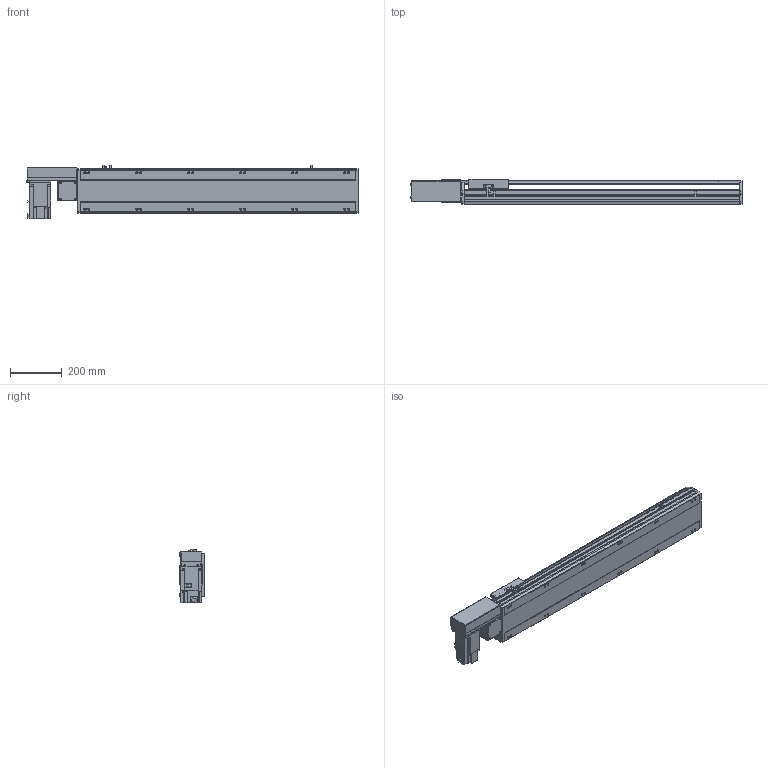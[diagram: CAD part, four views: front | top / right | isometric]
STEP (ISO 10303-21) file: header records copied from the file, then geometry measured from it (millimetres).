
FILE_DESCRIPTION( ( 'STEP AP214' ), '1' );
FILE_NAME( 'x:/temp/worker_4/temp/exporttempdir_2248_260_O9kX8/format_0/PBS170-P40-S800-R-T75-C1-N(0).stp', '2022-06-07T07:29:43', ( 'License CC BY-ND 4.0' ), ( 'CADENAS' ), ' ', 'PARTsolutions', ' ' );
FILE_SCHEMA( ( 'AUTOMOTIVE_DESIGN { 1 0 10303 214 1 1 1 1 }' ) );
Length unit declared in the file: millimetre
Products named in the file (7): PBS170-P40-S800-R-T75-C1-N(0); _PBS170-S800()_body; _PBS170T-R_motors; _T75-p1; _PBS170_sliser; _PBS170_plant; _PBS170_sensor
Assembly tree (8 placements, depth 2):
  PBS170-P40-S800-R-T75-C1-N(0)
    _PBS170-S800()_body
    _PBS170T-R_motors
    _T75-p1
    _PBS170_sliser
    _PBS170_plant
    _PBS170_sensor  x3
Bounding box: 1278 x 97 x 205.3 mm (x, y, z)
Volume: 9567605.9 mm3; surface area: 1267361.5 mm2
Topology: 8 solids, 8 shells, 1050 faces, 2795 edges, 1822 vertices
Faces by surface type: plane 675, cylinder 323, cone 42, sphere 8, torus 2
Full cylindrical faces by diameter (mm): 3.242 x4, 4 x2, 4.4 x4, 4.5 x6, 4.917 x4, 6 x9, 6.647 x20, 7 x2, 7.5 x4, 8 x8, 8.5 x12, 10 x4, 10.5 x12, 11 x2, 30 x2, 40 x1, 70 x1
Entity records: 38456 total; most frequent: CARTESIAN_POINT 5885, DIRECTION 5160, ORIENTED_EDGE 4908, EDGE_CURVE 2454, AXIS2_PLACEMENT_3D 1777, VERTEX_POINT 1682, LINE 1606, VECTOR 1606
